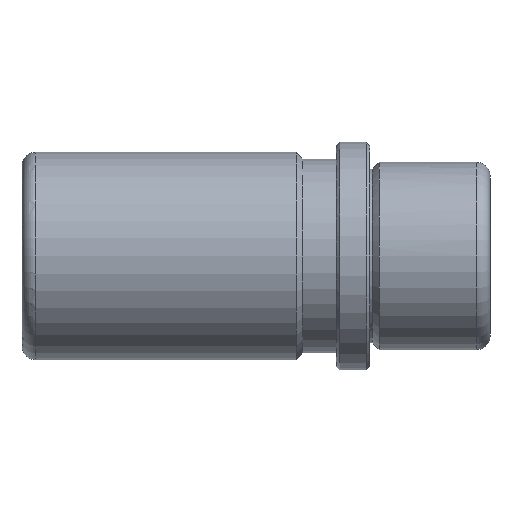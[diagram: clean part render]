
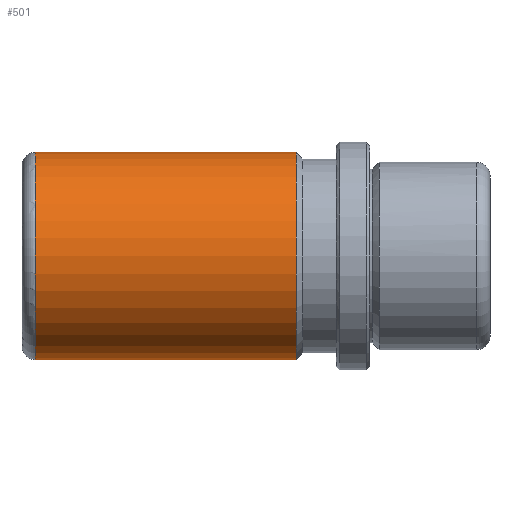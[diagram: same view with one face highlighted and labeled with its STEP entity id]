
A CAD part, front view. The second image highlights one B-rep face of the part: STEP entity #501.
In plain terms, the highlighted cylindrical face has radius 15.5 mm (diameter 31 mm), a partial arc.
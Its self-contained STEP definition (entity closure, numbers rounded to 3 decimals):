
#290=CARTESIAN_POINT('Line Origine',(18.,0.,15.5)) ;
#294=CARTESIAN_POINT('Vertex',(-11.,0.,15.5)) ;
#296=CARTESIAN_POINT('Vertex',(-50.,0.,15.5)) ;
#310=CARTESIAN_POINT('Vertex',(-11.,0.,-15.5)) ;
#313=CARTESIAN_POINT('Line Origine',(18.,0.,-15.5)) ;
#317=CARTESIAN_POINT('Vertex',(-50.,0.,-15.5)) ;
#464=CARTESIAN_POINT('Axis2P3D Location',(18.,0.,0.)) ;
#469=CARTESIAN_POINT('Axis2P3D Location',(-11.,0.,0.)) ;
#473=CARTESIAN_POINT('Vertex',(-11.,-15.5,0.)) ;
#476=CARTESIAN_POINT('Axis2P3D Location',(-11.,0.,0.)) ;
#481=CARTESIAN_POINT('Axis2P3D Location',(-50.,0.,0.)) ;
#485=CARTESIAN_POINT('Vertex',(-50.,-15.5,0.)) ;
#488=CARTESIAN_POINT('Axis2P3D Location',(-50.,0.,0.)) ;
#291=DIRECTION('Vector Direction',(-1.,0.,0.)) ;
#314=DIRECTION('Vector Direction',(-1.,0.,0.)) ;
#465=DIRECTION('Axis2P3D Direction',(-1.,-0.,-0.)) ;
#466=DIRECTION('Axis2P3D XDirection',(0.,0.,-1.)) ;
#470=DIRECTION('Axis2P3D Direction',(-1.,-0.,-0.)) ;
#477=DIRECTION('Axis2P3D Direction',(-1.,-0.,-0.)) ;
#482=DIRECTION('Axis2P3D Direction',(-1.,-0.,-0.)) ;
#489=DIRECTION('Axis2P3D Direction',(-1.,-0.,-0.)) ;
#467=AXIS2_PLACEMENT_3D('Cylinder Axis2P3D',#464,#465,#466) ;
#471=AXIS2_PLACEMENT_3D('Circle Axis2P3D',#469,#470,$) ;
#478=AXIS2_PLACEMENT_3D('Circle Axis2P3D',#476,#477,$) ;
#483=AXIS2_PLACEMENT_3D('Circle Axis2P3D',#481,#482,$) ;
#490=AXIS2_PLACEMENT_3D('Circle Axis2P3D',#488,#489,$) ;
#494=ORIENTED_EDGE('',*,*,#319,.T.) ;
#495=ORIENTED_EDGE('',*,*,#475,.F.) ;
#496=ORIENTED_EDGE('',*,*,#480,.F.) ;
#497=ORIENTED_EDGE('',*,*,#298,.T.) ;
#498=ORIENTED_EDGE('',*,*,#487,.T.) ;
#499=ORIENTED_EDGE('',*,*,#492,.T.) ;
#292=VECTOR('Line Direction',#291,1.) ;
#315=VECTOR('Line Direction',#314,1.) ;
#501=ADVANCED_FACE('CF 655 19 x 70',(#500),#468,.T.) ;
#472=CIRCLE('generated circle',#471,15.5) ;
#479=CIRCLE('generated circle',#478,15.5) ;
#484=CIRCLE('generated circle',#483,15.5) ;
#491=CIRCLE('generated circle',#490,15.5) ;
#468=CYLINDRICAL_SURFACE('generated cylinder',#467,15.5) ;
#298=EDGE_CURVE('',#295,#297,#293,.T.) ;
#319=EDGE_CURVE('',#318,#311,#316,.F.) ;
#475=EDGE_CURVE('',#474,#311,#472,.F.) ;
#480=EDGE_CURVE('',#295,#474,#479,.F.) ;
#487=EDGE_CURVE('',#297,#486,#484,.F.) ;
#492=EDGE_CURVE('',#486,#318,#491,.F.) ;
#493=EDGE_LOOP('',(#494,#495,#496,#497,#498,#499)) ;
#500=FACE_OUTER_BOUND('',#493,.T.) ;
#293=LINE('Line',#290,#292) ;
#316=LINE('Line',#313,#315) ;
#295=VERTEX_POINT('',#294) ;
#297=VERTEX_POINT('',#296) ;
#311=VERTEX_POINT('',#310) ;
#318=VERTEX_POINT('',#317) ;
#474=VERTEX_POINT('',#473) ;
#486=VERTEX_POINT('',#485) ;
